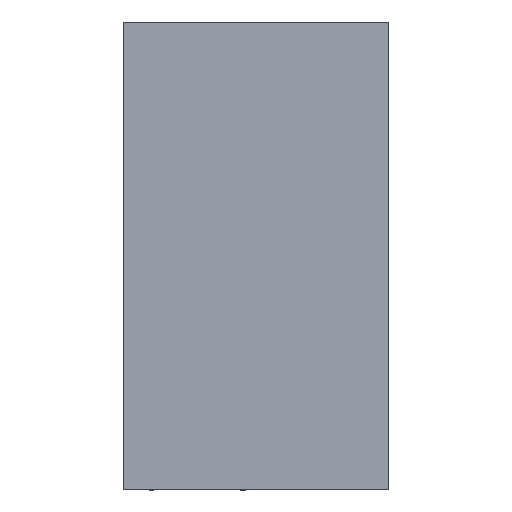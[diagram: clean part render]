
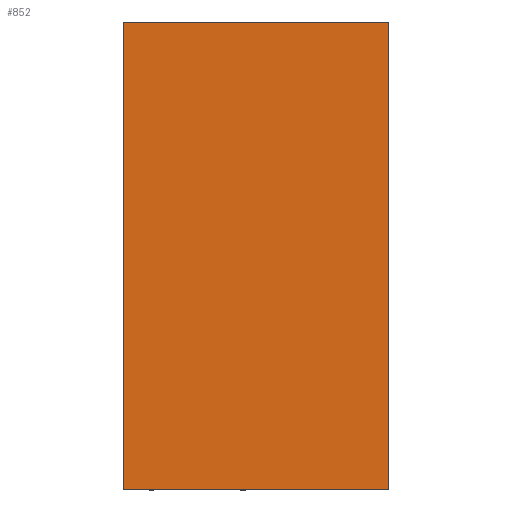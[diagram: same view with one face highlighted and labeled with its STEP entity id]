
A CAD part, left-side view. The second image highlights one B-rep face of the part: STEP entity #852.
In plain terms, the highlighted planar face has unit normal (-1, 0, 0).
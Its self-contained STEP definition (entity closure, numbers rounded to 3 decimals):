
#116=LINE('',#1377,#202);
#122=LINE('',#1393,#208);
#129=LINE('',#1407,#215);
#131=LINE('',#1410,#217);
#202=VECTOR('',#1136,10.);
#208=VECTOR('',#1148,10.);
#215=VECTOR('',#1169,10.);
#217=VECTOR('',#1173,10.);
#266=FACE_OUTER_BOUND('',#332,.T.);
#332=EDGE_LOOP('',(#759,#760,#761,#762));
#428=VERTEX_POINT('',#1374);
#429=VERTEX_POINT('',#1376);
#434=VERTEX_POINT('',#1387);
#436=VERTEX_POINT('',#1391);
#530=EDGE_CURVE('',#428,#429,#116,.T.);
#538=EDGE_CURVE('',#434,#436,#122,.T.);
#545=EDGE_CURVE('',#436,#429,#129,.F.);
#547=EDGE_CURVE('',#434,#428,#131,.T.);
#759=ORIENTED_EDGE('',*,*,#538,.T.);
#760=ORIENTED_EDGE('',*,*,#545,.T.);
#761=ORIENTED_EDGE('',*,*,#530,.F.);
#762=ORIENTED_EDGE('',*,*,#547,.F.);
#804=PLANE('',#940);
#852=ADVANCED_FACE('',(#266),#804,.T.);
#940=AXIS2_PLACEMENT_3D('',#1409,#1171,#1172);
#1136=DIRECTION('',(0.,0.,-1.));
#1148=DIRECTION('',(0.,0.,-1.));
#1169=DIRECTION('',(0.,1.,0.));
#1171=DIRECTION('center_axis',(-1.,0.,0.));
#1172=DIRECTION('ref_axis',(0.,0.,
-1.));
#1173=DIRECTION('',(0.,-1.,0.));
#1374=CARTESIAN_POINT('',(12.999,-18.951,181.65));
#1376=CARTESIAN_POINT('',(12.999,-18.951,141.05));
#1377=CARTESIAN_POINT('',(12.999,-18.951,171.55));
#1387=CARTESIAN_POINT('',(12.999,4.049,181.65));
#1391=CARTESIAN_POINT('',(12.999,4.049,141.05));
#1393=CARTESIAN_POINT('',(12.999,4.049,181.75));
#1407=CARTESIAN_POINT('',(12.999,-0.951,141.05));
#1409=CARTESIAN_POINT('Origin',(12.999,4.049,181.75));
#1410=CARTESIAN_POINT('',(12.999,-0.951,181.65));
